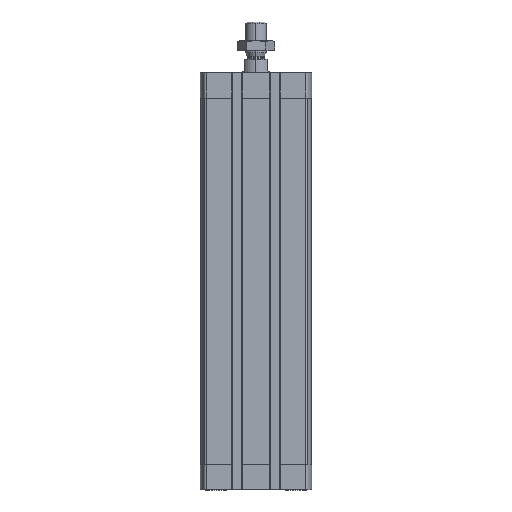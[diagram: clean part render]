
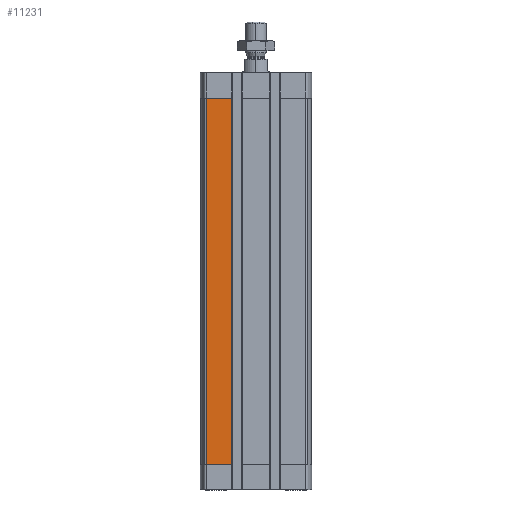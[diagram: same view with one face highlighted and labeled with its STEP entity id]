
A CAD part, left-side view. The second image highlights one B-rep face of the part: STEP entity #11231.
In plain terms, the highlighted planar face has unit normal (-1, 0, 0).
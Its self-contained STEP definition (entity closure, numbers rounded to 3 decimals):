
#336 = VERTEX_POINT ( 'NONE', #15403 ) ;
#610 = DIRECTION ( 'NONE',  ( -1., 0., 0. ) ) ;
#2388 = EDGE_CURVE ( 'NONE', #336, #7917, #3210, .T. ) ;
#2673 = DIRECTION ( 'NONE',  ( 0., 0., 1. ) ) ;
#2861 = VERTEX_POINT ( 'NONE', #15047 ) ;
#3210 = LINE ( 'NONE', #4531, #9915 ) ;
#4291 = VECTOR ( 'NONE', #2673, 1000. ) ;
#4366 = CARTESIAN_POINT ( 'NONE',  ( -32.5, 29.291, -230. ) ) ;
#4517 = DIRECTION ( 'NONE',  ( 0., 1., 0. ) ) ;
#4531 = CARTESIAN_POINT ( 'NONE',  ( -32.5, 0., -15. ) ) ;
#4584 = CARTESIAN_POINT ( 'NONE',  ( -32.5, 29.291, -230. ) ) ;
#5347 = ORIENTED_EDGE ( 'NONE', *, *, #5980, .T. ) ;
#5377 = EDGE_LOOP ( 'NONE', ( #11509, #5347, #10761, #8767 ) ) ;
#5980 = EDGE_CURVE ( 'NONE', #2861, #336, #8038, .T. ) ;
#6005 = EDGE_CURVE ( 'NONE', #8654, #2861, #10574, .T. ) ;
#6414 = CARTESIAN_POINT ( 'NONE',  ( -32.5, 14.2, -230. ) ) ;
#6495 = FACE_OUTER_BOUND ( 'NONE', #5377, .T. ) ;
#6641 = CARTESIAN_POINT ( 'NONE',  ( -32.5, 29.291, -230. ) ) ;
#6734 = LINE ( 'NONE', #6641, #12950 ) ;
#7265 = VECTOR ( 'NONE', #10279, 1000. ) ;
#7917 = VERTEX_POINT ( 'NONE', #8995 ) ;
#8038 = LINE ( 'NONE', #6414, #4291 ) ;
#8654 = VERTEX_POINT ( 'NONE', #4584 ) ;
#8767 = ORIENTED_EDGE ( 'NONE', *, *, #10327, .T. ) ;
#8995 = CARTESIAN_POINT ( 'NONE',  ( -32.5, 29.291, -15. ) ) ;
#9430 = DIRECTION ( 'NONE',  ( 0., 0., 1. ) ) ;
#9915 = VECTOR ( 'NONE', #4517, 1000. ) ;
#10279 = DIRECTION ( 'NONE',  ( 0., -1., 0. ) ) ;
#10299 = AXIS2_PLACEMENT_3D ( 'NONE', #4366, #610, #9430 ) ;
#10327 = EDGE_CURVE ( 'NONE', #7917, #8654, #6734, .T. ) ;
#10574 = LINE ( 'NONE', #13939, #7265 ) ;
#10761 = ORIENTED_EDGE ( 'NONE', *, *, #2388, .T. ) ;
#11231 = ADVANCED_FACE ( 'NONE', ( #6495 ), #13090, .T. ) ;
#11509 = ORIENTED_EDGE ( 'NONE', *, *, #6005, .T. ) ;
#12950 = VECTOR ( 'NONE', #15348, 1000. ) ;
#13090 = PLANE ( 'NONE',  #10299 ) ;
#13939 = CARTESIAN_POINT ( 'NONE',  ( -32.5, 29.291, -230. ) ) ;
#15047 = CARTESIAN_POINT ( 'NONE',  ( -32.5, 14.2, -230. ) ) ;
#15348 = DIRECTION ( 'NONE',  ( 0., 0., -1. ) ) ;
#15403 = CARTESIAN_POINT ( 'NONE',  ( -32.5, 14.2, -15. ) ) ;
